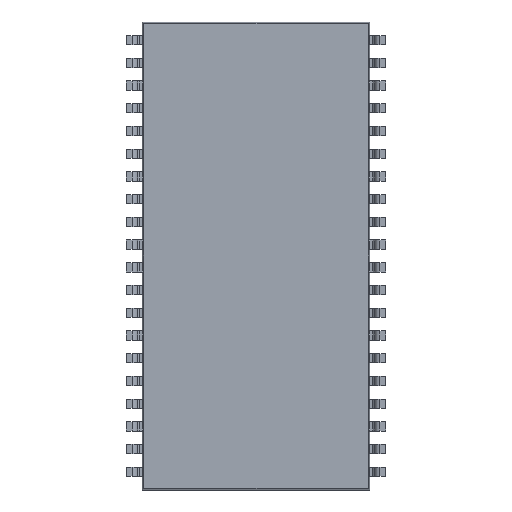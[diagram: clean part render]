
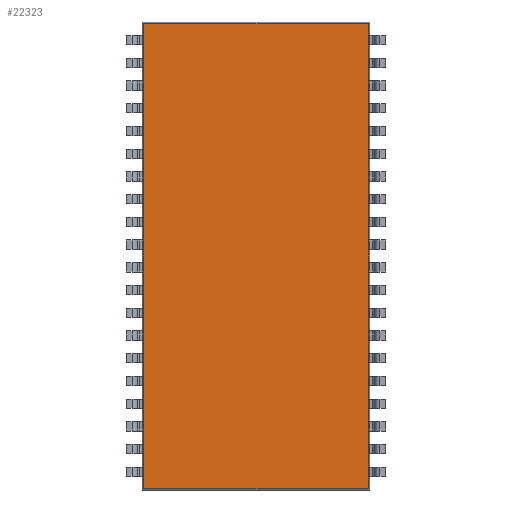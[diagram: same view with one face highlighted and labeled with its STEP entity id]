
A CAD part, front view. The second image highlights one B-rep face of the part: STEP entity #22323.
In plain terms, the highlighted planar face has unit normal (0, -1, 0).
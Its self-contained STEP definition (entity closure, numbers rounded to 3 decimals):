
#1163 = EDGE_LOOP ( 'NONE', ( #6364, #6365, #6366, #6367 ) ) ;
#6364 = ORIENTED_EDGE ( 'NONE', *, *, #25852, .T. ) ;
#6365 = ORIENTED_EDGE ( 'NONE', *, *, #25927, .T. ) ;
#6366 = ORIENTED_EDGE ( 'NONE', *, *, #25860, .T. ) ;
#6367 = ORIENTED_EDGE ( 'NONE', *, *, #25928, .T. ) ;
#11475 = AXIS2_PLACEMENT_3D ( 'NONE', #13204, #13209, #13210 ) ;
#13203 = PLANE ( 'NONE',  #11475 ) ;
#13204 = CARTESIAN_POINT ( 'NONE',  ( 0., 0.1, 0. ) ) ;
#13209 = DIRECTION ( 'NONE',  ( 0., 1., 0. ) ) ;
#13210 = DIRECTION ( 'NONE',  ( 0., 0., 1. ) ) ;
#13407 = FACE_OUTER_BOUND ( 'NONE', #1163, .T. ) ;
#15273 = CARTESIAN_POINT ( 'NONE',  ( -6.266, 0.1, 12.996 ) ) ;
#15297 = CARTESIAN_POINT ( 'NONE',  ( -6.266, 0.1, -12.996 ) ) ;
#17949 = LINE ( 'NONE', #18948, #17958 ) ;
#17958 = VECTOR ( 'NONE', #18962, 1000. ) ;
#17965 = LINE ( 'NONE', #18963, #17974 ) ;
#17974 = VECTOR ( 'NONE', #18978, 1000. ) ;
#18104 = LINE ( 'NONE', #19112, #18107 ) ;
#18106 = LINE ( 'NONE', #19114, #18109 ) ;
#18107 = VECTOR ( 'NONE', #19113, 1000. ) ;
#18109 = VECTOR ( 'NONE', #19115, 1000. ) ;
#18948 = CARTESIAN_POINT ( 'NONE',  ( -6.266, 0.1, 13.08 ) ) ;
#18962 = DIRECTION ( 'NONE',  ( 0., 0., -1. ) ) ;
#18963 = CARTESIAN_POINT ( 'NONE',  ( 6.266, 0.1, 13.08 ) ) ;
#18978 = DIRECTION ( 'NONE',  ( 0., 0., 1. ) ) ;
#19112 = CARTESIAN_POINT ( 'NONE',  ( 6.35, 0.1, -12.996 ) ) ;
#19113 = DIRECTION ( 'NONE',  ( 1., 0., 0. ) ) ;
#19114 = CARTESIAN_POINT ( 'NONE',  ( 6.35, 0.1, 12.996 ) ) ;
#19115 = DIRECTION ( 'NONE',  ( -1., 0., 0. ) ) ;
#20833 = VERTEX_POINT ( 'NONE', #15297 ) ;
#20845 = VERTEX_POINT ( 'NONE', #15273 ) ;
#20910 = VERTEX_POINT ( 'NONE', #24403 ) ;
#21193 = VERTEX_POINT ( 'NONE', #23621 ) ;
#22323 = ADVANCED_FACE ( 'NONE', ( #13407 ), #13203, .F. ) ;
#23621 = CARTESIAN_POINT ( 'NONE',  ( 6.266, 0.1, 12.996 ) ) ;
#24403 = CARTESIAN_POINT ( 'NONE',  ( 6.266, 0.1, -12.996 ) ) ;
#25852 = EDGE_CURVE ( 'NONE', #20845, #20833, #17949, .T. ) ;
#25860 = EDGE_CURVE ( 'NONE', #20910, #21193, #17965, .T. ) ;
#25927 = EDGE_CURVE ( 'NONE', #20833, #20910, #18104, .T. ) ;
#25928 = EDGE_CURVE ( 'NONE', #21193, #20845, #18106, .T. ) ;
